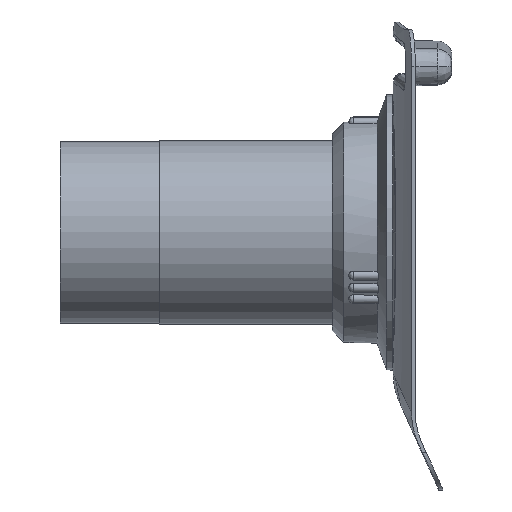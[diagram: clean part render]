
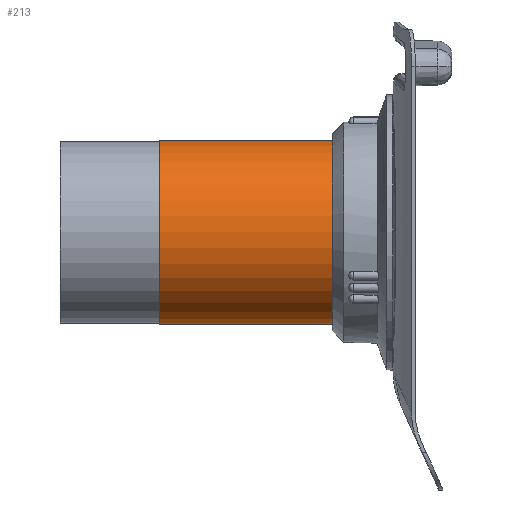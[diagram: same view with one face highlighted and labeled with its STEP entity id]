
A CAD part, top view. The second image highlights one B-rep face of the part: STEP entity #213.
In plain terms, the highlighted cylindrical face has radius 50 mm (diameter 100 mm), a partial arc.
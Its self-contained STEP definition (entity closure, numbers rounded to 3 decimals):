
#24=CARTESIAN_POINT('',(-121.,0.,0.));
#25=DIRECTION('',(1.,0.,0.));
#26=DIRECTION('',(0.,1.,0.));
#27=AXIS2_PLACEMENT_3D('',#24,#25,#26);
#33=CARTESIAN_POINT('',(0.,0.,0.));
#34=DIRECTION('',(1.,0.,0.));
#35=DIRECTION('',(0.,1.,0.));
#36=AXIS2_PLACEMENT_3D('',#33,#34,#35);
#81=DIRECTION('',(-1.,0.,0.));
#82=VECTOR('',#81,121.);
#83=CARTESIAN_POINT('',(0.,-50.,0.));
#84=LINE('',#83,#82);
#96=DIRECTION('',(-1.,0.,0.));
#97=VECTOR('',#96,121.);
#98=CARTESIAN_POINT('',(0.,50.,0.));
#99=LINE('',#98,#97);
#163=CARTESIAN_POINT('',(0.,50.,0.));
#164=CARTESIAN_POINT('',(0.,-50.,0.));
#165=VERTEX_POINT('',#163);
#166=VERTEX_POINT('',#164);
#183=CARTESIAN_POINT('',(-121.,50.,0.));
#184=CARTESIAN_POINT('',(-121.,-50.,0.));
#185=VERTEX_POINT('',#183);
#186=VERTEX_POINT('',#184);
#199=CARTESIAN_POINT('',(-183.75,0.,0.));
#200=DIRECTION('',(1.,0.,0.));
#201=DIRECTION('',(0.,-1.,0.));
#202=AXIS2_PLACEMENT_3D('',#199,#200,#201);
#203=CYLINDRICAL_SURFACE('',#202,50.);
#205=ORIENTED_EDGE('',*,*,#204,.F.);
#207=ORIENTED_EDGE('',*,*,#206,.F.);
#208=ORIENTED_EDGE('',*,*,#192,.T.);
#210=ORIENTED_EDGE('',*,*,#209,.T.);
#211=EDGE_LOOP('',(#205,#207,#208,#210));
#212=FACE_OUTER_BOUND('',#211,.F.);
#28=CIRCLE('',#27,50.);
#37=CIRCLE('',#36,50.);
#192=EDGE_CURVE('',#165,#166,#37,.T.);
#204=EDGE_CURVE('',#185,#186,#28,.T.);
#206=EDGE_CURVE('',#165,#185,#99,.T.);
#209=EDGE_CURVE('',#166,#186,#84,.T.);
#213=ADVANCED_FACE('',(#212),#203,.T.);
